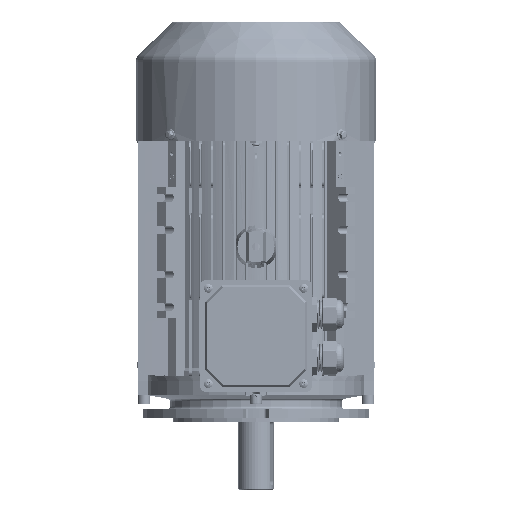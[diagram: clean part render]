
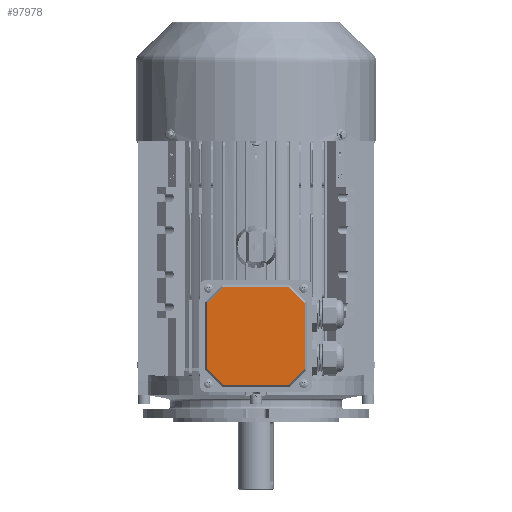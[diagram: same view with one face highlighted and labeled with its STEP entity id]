
A CAD part, top view. The second image highlights one B-rep face of the part: STEP entity #97978.
In plain terms, the highlighted planar face has unit normal (0, 0, 1) as drawn and (0, 0, -1) by its records, which use the part's own axes.
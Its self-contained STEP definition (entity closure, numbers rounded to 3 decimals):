
#35 = CARTESIAN_POINT ( 'NONE',  ( -52.536, 0., -4. ) ) ;
#2723 = ORIENTED_EDGE ( 'NONE', *, *, #6597, .F. ) ;
#3067 = DIRECTION ( 'NONE',  ( 0., 0., 1. ) ) ;
#3908 = CARTESIAN_POINT ( 'NONE',  ( -52.536, -35.903, -4. ) ) ;
#4048 = VERTEX_POINT ( 'NONE', #112713 ) ;
#4412 = EDGE_CURVE ( 'NONE', #26832, #126922, #22578, .T. ) ;
#5883 = VECTOR ( 'NONE', #114420, 1000. ) ;
#6597 = EDGE_CURVE ( 'NONE', #112898, #110433, #85124, .T. ) ;
#10651 = EDGE_CURVE ( 'NONE', #126922, #107808, #10951, .T. ) ;
#10951 = LINE ( 'NONE', #72072, #117660 ) ;
#13853 = VECTOR ( 'NONE', #83457, 1000. ) ;
#17528 = EDGE_CURVE ( 'NONE', #4048, #20668, #125458, .T. ) ;
#17543 = DIRECTION ( 'NONE',  ( 0.707, -0.707, 0. ) ) ;
#20668 = VERTEX_POINT ( 'NONE', #3908 ) ;
#22578 = LINE ( 'NONE', #67472, #84079 ) ;
#26579 = ORIENTED_EDGE ( 'NONE', *, *, #4412, .F. ) ;
#26832 = VERTEX_POINT ( 'NONE', #48693 ) ;
#31121 = ORIENTED_EDGE ( 'NONE', *, *, #17528, .F. ) ;
#32410 = ORIENTED_EDGE ( 'NONE', *, *, #125530, .F. ) ;
#38322 = CARTESIAN_POINT ( 'NONE',  ( -44.22, -44.22, -4. ) ) ;
#38535 = ORIENTED_EDGE ( 'NONE', *, *, #39252, .F. ) ;
#39252 = EDGE_CURVE ( 'NONE', #110433, #4048, #75316, .T. ) ;
#42076 = CARTESIAN_POINT ( 'NONE',  ( 0., 52.536, -4. ) ) ;
#48693 = CARTESIAN_POINT ( 'NONE',  ( 35.903, -52.536, -4. ) ) ;
#50139 = LINE ( 'NONE', #112044, #71197 ) ;
#50938 = CARTESIAN_POINT ( 'NONE',  ( -35.903, -52.536, -4. ) ) ;
#52249 = CARTESIAN_POINT ( 'NONE',  ( -44.22, 44.22, -4. ) ) ;
#60791 = VECTOR ( 'NONE', #123868, 1000. ) ;
#64590 = CARTESIAN_POINT ( 'NONE',  ( 0., 0., -4. ) ) ;
#65037 = PLANE ( 'NONE',  #101043 ) ;
#67472 = CARTESIAN_POINT ( 'NONE',  ( 44.22, -44.22, -4. ) ) ;
#69532 = LINE ( 'NONE', #115124, #121207 ) ;
#71197 = VECTOR ( 'NONE', #122407, 1000. ) ;
#72072 = CARTESIAN_POINT ( 'NONE',  ( 52.536, 0., -4. ) ) ;
#75316 = LINE ( 'NONE', #52249, #13853 ) ;
#75405 = DIRECTION ( 'NONE',  ( 1., 0., 0. ) ) ;
#77654 = ORIENTED_EDGE ( 'NONE', *, *, #125855, .F. ) ;
#78615 = CARTESIAN_POINT ( 'NONE',  ( -35.903, 52.536, -4. ) ) ;
#83457 = DIRECTION ( 'NONE',  ( -0.707, -0.707, 0. ) ) ;
#84079 = VECTOR ( 'NONE', #108532, 1000. ) ;
#85124 = LINE ( 'NONE', #42076, #5883 ) ;
#90933 = CARTESIAN_POINT ( 'NONE',  ( 35.903, 52.536, -4. ) ) ;
#97978 = ADVANCED_FACE ( 'NONE', ( #134149 ), #65037, .F. ) ;
#99747 = LINE ( 'NONE', #38322, #127191 ) ;
#101043 = AXIS2_PLACEMENT_3D ( 'NONE', #64590, #3067, #75405 ) ;
#104903 = CARTESIAN_POINT ( 'NONE',  ( 52.536, -35.903, -4. ) ) ;
#107808 = VERTEX_POINT ( 'NONE', #117357 ) ;
#108532 = DIRECTION ( 'NONE',  ( 0.707, 0.707, 0. ) ) ;
#110433 = VERTEX_POINT ( 'NONE', #78615 ) ;
#112044 = CARTESIAN_POINT ( 'NONE',  ( 44.22, 44.22, -4. ) ) ;
#112713 = CARTESIAN_POINT ( 'NONE',  ( -52.536, 35.903, -4. ) ) ;
#112898 = VERTEX_POINT ( 'NONE', #90933 ) ;
#114420 = DIRECTION ( 'NONE',  ( -1., 0., 0. ) ) ;
#115124 = CARTESIAN_POINT ( 'NONE',  ( 0., -52.536, -4. ) ) ;
#115563 = DIRECTION ( 'NONE',  ( 1., 0., 0. ) ) ;
#116145 = VERTEX_POINT ( 'NONE', #50938 ) ;
#117357 = CARTESIAN_POINT ( 'NONE',  ( 52.536, 35.903, -4. ) ) ;
#117660 = VECTOR ( 'NONE', #123501, 1000. ) ;
#121207 = VECTOR ( 'NONE', #115563, 1000. ) ;
#121466 = ORIENTED_EDGE ( 'NONE', *, *, #10651, .F. ) ;
#122407 = DIRECTION ( 'NONE',  ( -0.707, 0.707, 0. ) ) ;
#122927 = EDGE_LOOP ( 'NONE', ( #121466, #26579, #77654, #127710, #31121, #38535, #2723, #32410 ) ) ;
#123501 = DIRECTION ( 'NONE',  ( 0., 1., 0. ) ) ;
#123868 = DIRECTION ( 'NONE',  ( 0., -1., 0. ) ) ;
#125458 = LINE ( 'NONE', #35, #60791 ) ;
#125530 = EDGE_CURVE ( 'NONE', #107808, #112898, #50139, .T. ) ;
#125855 = EDGE_CURVE ( 'NONE', #116145, #26832, #69532, .T. ) ;
#126922 = VERTEX_POINT ( 'NONE', #104903 ) ;
#127191 = VECTOR ( 'NONE', #17543, 1000. ) ;
#127710 = ORIENTED_EDGE ( 'NONE', *, *, #128587, .F. ) ;
#128587 = EDGE_CURVE ( 'NONE', #20668, #116145, #99747, .T. ) ;
#134149 = FACE_OUTER_BOUND ( 'NONE', #122927, .T. ) ;
